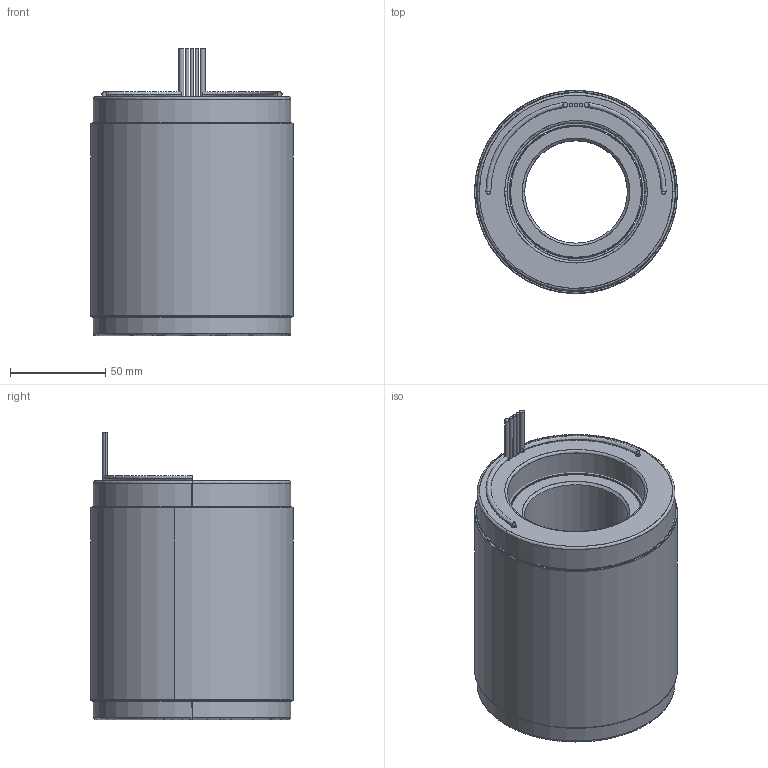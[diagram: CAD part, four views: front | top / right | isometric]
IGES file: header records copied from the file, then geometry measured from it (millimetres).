
Start section: SolidWorks IGES file using analytic representation for surfaces
Global section: file name: \\fs01.aveox.local\user documents\eng\My Documents\STANDARD STATOR ROTOR SETS\NEW DIRECT DRIVE MOTOR\4.2 OD 18S16P\6100329-05.IGS; native system: SolidWorks 2016; preprocessor: SolidWorks 2016; author: eng; date: 191023.143423; units: millimetre
Bounding box: 106.68 x 106.68 x 151.13 mm (x, y, z)
Surface area: 228316.7 mm2 (no closed solid volume)
Topology: 0 solids, 0 shells, 94 faces, 2628 edges, 2628 vertices
Faces by surface type: revolution 52, bspline 42
